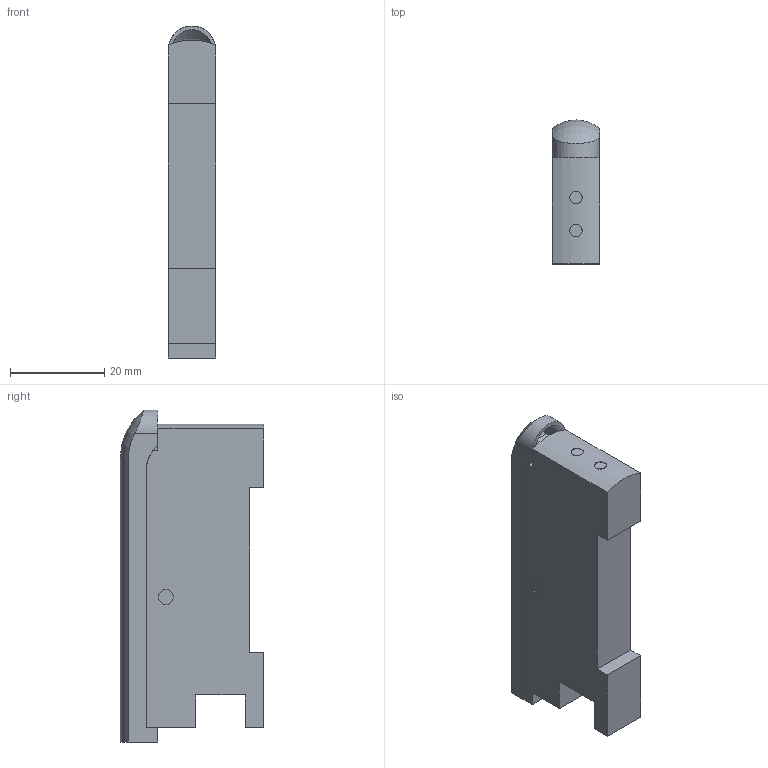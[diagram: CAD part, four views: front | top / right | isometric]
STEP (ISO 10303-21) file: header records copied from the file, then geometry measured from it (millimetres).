
FILE_DESCRIPTION (( 'STEP AP203' ), '1' );
FILE_NAME ('FX-311.STEP', '2005-09-05T01:24:52', ( '川島良英' ), ( ' ' ), 'SwSTEP 2.0', 'SolidWorks 2004251', '' );
FILE_SCHEMA (( 'CONFIG_CONTROL_DESIGN' ));
Length unit declared in the file: millimetre
Products named in the file (1): FX-311
Bounding box: 10 x 30.5 x 70.5 mm (x, y, z)
Volume: 16829.3 mm3; surface area: 7906.9 mm2
Topology: 2 solids, 2 shells, 131 faces, 334 edges, 218 vertices
Faces by surface type: plane 108, cylinder 21, torus 2
Entity records: 4125 total; most frequent: CARTESIAN_POINT 844, ORIENTED_EDGE 668, DIRECTION 638, EDGE_CURVE 334, VECTOR 282, LINE 282, VERTEX_POINT 218, AXIS2_PLACEMENT_3D 178
